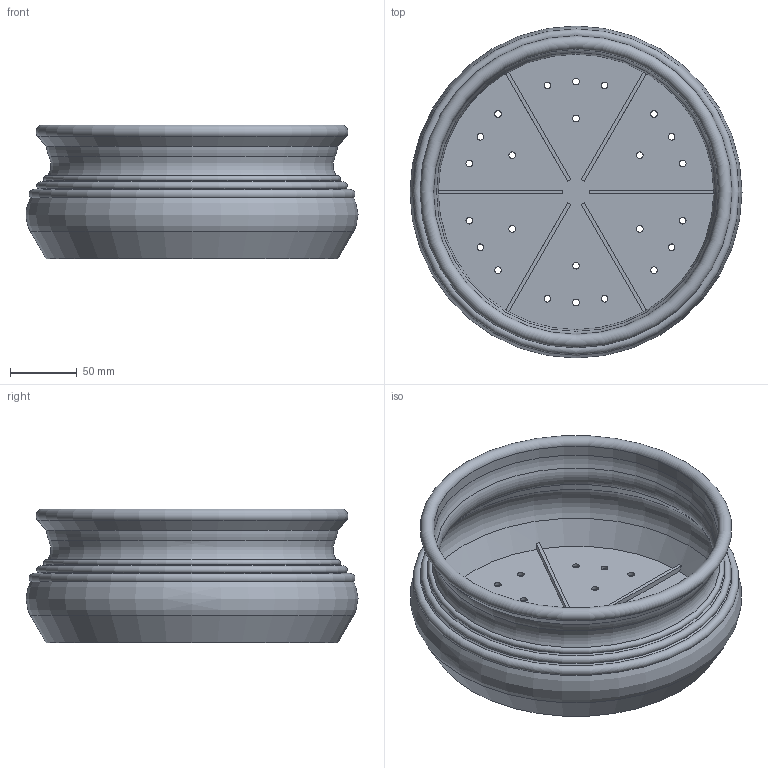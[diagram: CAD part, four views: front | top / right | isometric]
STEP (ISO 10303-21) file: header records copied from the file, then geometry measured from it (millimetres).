
FILE_DESCRIPTION(/* description */ (''),/* implementation_level */ '2;1');
FILE_NAME(/* name */ 'LR2406-S25-H100-D250_step.step',/* time_stamp */ '2024-02-01T10:58:51+01:00',/* author */ (''),/* organization */ (''),/* preprocessor_version */ 'ST-DEVELOPER v20',/* originating_system */ 'Autodesk Translation Framework v12.20.1.177',/* authorisation */ '');
FILE_SCHEMA (('AUTOMOTIVE_DESIGN { 1 0 10303 214 3 1 1 }'));
Length unit declared in the file: millimetre
Products named in the file (1): LR2406-S25-H100-D250
Bounding box: 248 x 248 x 100 mm (x, y, z)
Volume: 345978.2 mm3; surface area: 244464.9 mm2
Topology: 1 solids, 1 shells, 67 faces, 179 edges, 114 vertices
Faces by surface type: cylinder 31, plane 20, torus 10, cone 6
Full cylindrical faces by diameter (mm): 5 x24, 213 x1
Entity records: 2261 total; most frequent: DIRECTION 415, CARTESIAN_POINT 361, ORIENTED_EDGE 358, EDGE_CURVE 179, AXIS2_PLACEMENT_3D 168, EDGE_LOOP 115, VERTEX_POINT 114, CIRCLE 100
